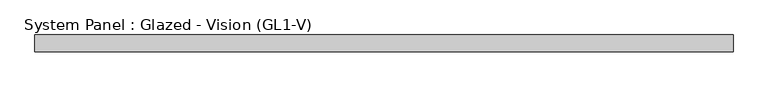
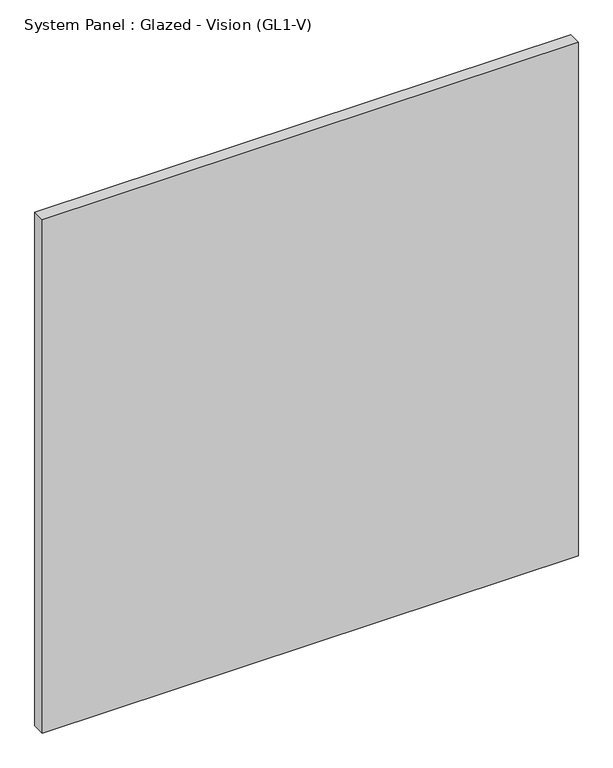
"""IFC4 building model written with IfcOpenShell, lengths in millimetres: plate geometry, System Panel : Glazed - Vision (GL1-V)."""

from ifc_helpers import new_model, si_unit, origin, origin_with_axes, place, context, project, spatial, polyline, outline, extrude, source, transform, mapped, element, save


def system_panel_glazed_vision_gl1_v_8de97ac9(model_context):
    return source(origin(), model_context, "Body", "SweptSolid", [
        extrude(outline(polyline([(527.05, -25.4), (-527.05, -25.4), (-527.05, 0.0), (527.05, 0.0), (527.05, -25.4)])), origin_with_axes(), (0.0, 0.0, 1.0), 1066.8000021),
    ])


if __name__ == "__main__":
    model = new_model("IFC4")
    model_context = context("Model", 3, world=origin())
    ifc_project = project(units=[si_unit("LENGTHUNIT", "METRE", prefix="MILLI")], contexts=[model_context])
    site = spatial("IfcSite", under=ifc_project)
    building = spatial("IfcBuilding", under=site)
    placement = place(None, origin())
    system_panel_glazed_vision_gl1_v_shape = system_panel_glazed_vision_gl1_v_8de97ac9(model_context)
    element("IfcPlate", 1, ObjectType="System Panel : Glazed - Vision (GL1-V)", at=placement, inside=building, context=model_context, shape_type="MappedRepresentation", body=[
        mapped(system_panel_glazed_vision_gl1_v_shape, transform((0.0, 0.0, 0.0), x_axis=(1.0, 0.0, 0.0), y_axis=(0.0, 1.0, 0.0), z_axis=(0.0, 0.0, 1.0))),
    ])
    save(model, "model.ifc")
